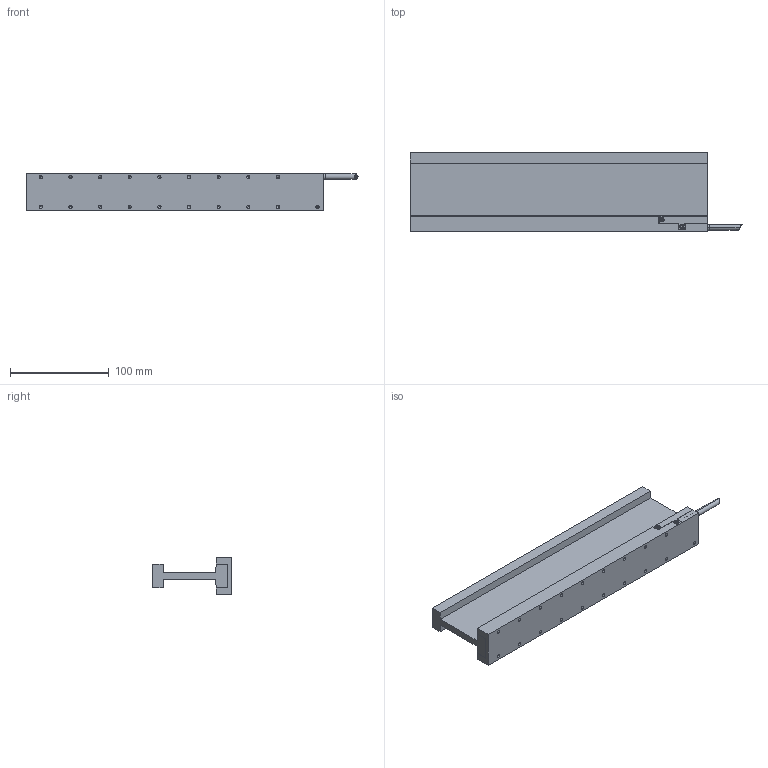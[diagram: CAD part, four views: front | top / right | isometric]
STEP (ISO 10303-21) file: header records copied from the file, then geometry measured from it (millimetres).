
FILE_DESCRIPTION (( 'STEP AP214' ), '1' );
FILE_NAME ('DX50F-C5-NH.STEP', '2021-07-16T04:11:31', ( '' ), ( '' ), 'SwSTEP 2.0', 'SolidWorks 2020', '' );
FILE_SCHEMA (( 'AUTOMOTIVE_DESIGN' ));
Length unit declared in the file: millimetre
Products named in the file (6): CBL_MTR_PWR_SS_4C2C_SA (#3620-1); DX50FCX01_C5 (CUSTOMER); DX50F-C5-NH; COUNTERSUNK SCREW SOCKET HEAD M2x0.4x4(S.S)_B18.6.7M - M2 x 0.4 x 4 Type I Cross Recessed FHMS --4C; DX50FH01-NH; TIM-PC 8850FT-LV + TIM EH-9_C5
Assembly tree (6 placements, depth 2):
  DX50F-C5-NH
    TIM-PC 8850FT-LV + TIM EH-9_C5
    CBL_MTR_PWR_SS_4C2C_SA (#3620-1)
    DX50FCX01_C5 (CUSTOMER)
    DX50FH01-NH
    COUNTERSUNK SCREW SOCKET HEAD M2x0.4x4(S.S)_B18.6.7M - M2 x 0.4 x 4 Type I Cross Recessed FHMS --4C  x2
Bounding box: 336 x 80 x 38.2 mm (x, y, z)
Volume: 371067.6 mm3; surface area: 115869.7 mm2
Topology: 6 solids, 6 shells, 201 faces, 492 edges, 286 vertices
Faces by surface type: plane 74, cylinder 71, cone 54, torus 2
Entity records: 5976 total; most frequent: CARTESIAN_POINT 971, DIRECTION 940, ORIENTED_EDGE 840, EDGE_CURVE 420, AXIS2_PLACEMENT_3D 336, VECTOR 268, LINE 268, VERTEX_POINT 266
